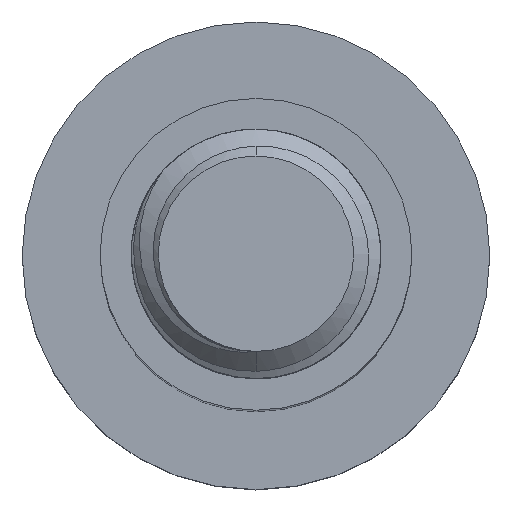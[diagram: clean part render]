
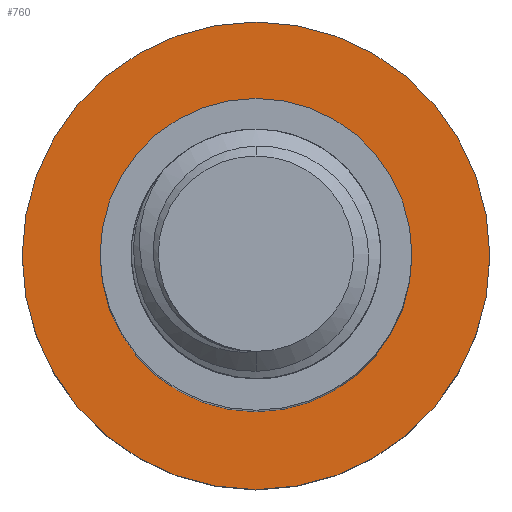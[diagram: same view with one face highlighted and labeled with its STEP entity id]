
A CAD part, top view. The second image highlights one B-rep face of the part: STEP entity #760.
In plain terms, the highlighted planar face has unit normal (0, 0, 1).
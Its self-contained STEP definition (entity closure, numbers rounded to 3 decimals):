
#27 = FACE_BOUND ( 'NONE', #4186, .T. ) ;
#160 = DIRECTION ( 'NONE',  ( 0., 0., -1. ) ) ;
#175 = CIRCLE ( 'NONE', #3216, 10. ) ;
#264 = DIRECTION ( 'NONE',  ( 0., 0., -1. ) ) ;
#296 = VERTEX_POINT ( 'NONE', #488 ) ;
#428 = FACE_OUTER_BOUND ( 'NONE', #3814, .T. ) ;
#479 = EDGE_CURVE ( 'NONE', #2780, #1855, #4865, .T. ) ;
#488 = CARTESIAN_POINT ( 'NONE',  ( 15., 0., -55. ) ) ;
#584 = ORIENTED_EDGE ( 'NONE', *, *, #5065, .T. ) ;
#671 = DIRECTION ( 'NONE',  ( -1., 0., 0. ) ) ;
#760 = ADVANCED_FACE ( 'NONE', ( #27, #428 ), #2687, .F. ) ;
#936 = EDGE_CURVE ( 'NONE', #1202, #296, #1093, .T. ) ;
#954 = DIRECTION ( 'NONE',  ( -1., 0., 0. ) ) ;
#977 = CARTESIAN_POINT ( 'NONE',  ( 0., 0., -55. ) ) ;
#1001 = DIRECTION ( 'NONE',  ( 0., 0., -1. ) ) ;
#1007 = CARTESIAN_POINT ( 'NONE',  ( -15., 0., -55. ) ) ;
#1093 = CIRCLE ( 'NONE', #4396, 15. ) ;
#1202 = VERTEX_POINT ( 'NONE', #1007 ) ;
#1204 = CIRCLE ( 'NONE', #1665, 15. ) ;
#1385 = CARTESIAN_POINT ( 'NONE',  ( 0., 0., -55. ) ) ;
#1463 = AXIS2_PLACEMENT_3D ( 'NONE', #4619, #264, #671 ) ;
#1665 = AXIS2_PLACEMENT_3D ( 'NONE', #5514, #160, #3243 ) ;
#1855 = VERTEX_POINT ( 'NONE', #5603 ) ;
#2456 = CARTESIAN_POINT ( 'NONE',  ( -10., 0., -55. ) ) ;
#2600 = DIRECTION ( 'NONE',  ( 0., 0., -1. ) ) ;
#2687 = PLANE ( 'NONE',  #5592 ) ;
#2780 = VERTEX_POINT ( 'NONE', #2456 ) ;
#2826 = DIRECTION ( 'NONE',  ( 0., 0., -1. ) ) ;
#2951 = ORIENTED_EDGE ( 'NONE', *, *, #479, .T. ) ;
#3200 = DIRECTION ( 'NONE',  ( -1., 0., 0. ) ) ;
#3216 = AXIS2_PLACEMENT_3D ( 'NONE', #1385, #2826, #3200 ) ;
#3243 = DIRECTION ( 'NONE',  ( -1., 0., 0. ) ) ;
#3681 = DIRECTION ( 'NONE',  ( -1., 0., 0. ) ) ;
#3814 = EDGE_LOOP ( 'NONE', ( #4797, #5244 ) ) ;
#4186 = EDGE_LOOP ( 'NONE', ( #2951, #584 ) ) ;
#4396 = AXIS2_PLACEMENT_3D ( 'NONE', #977, #1001, #3681 ) ;
#4619 = CARTESIAN_POINT ( 'NONE',  ( 0., 0., -55. ) ) ;
#4671 = EDGE_CURVE ( 'NONE', #296, #1202, #1204, .T. ) ;
#4797 = ORIENTED_EDGE ( 'NONE', *, *, #4671, .F. ) ;
#4865 = CIRCLE ( 'NONE', #1463, 10. ) ;
#4904 = CARTESIAN_POINT ( 'NONE',  ( 0., 0., -55. ) ) ;
#5065 = EDGE_CURVE ( 'NONE', #1855, #2780, #175, .T. ) ;
#5244 = ORIENTED_EDGE ( 'NONE', *, *, #936, .F. ) ;
#5514 = CARTESIAN_POINT ( 'NONE',  ( 0., 0., -55. ) ) ;
#5592 = AXIS2_PLACEMENT_3D ( 'NONE', #4904, #2600, #954 ) ;
#5603 = CARTESIAN_POINT ( 'NONE',  ( 10., 0., -55. ) ) ;
